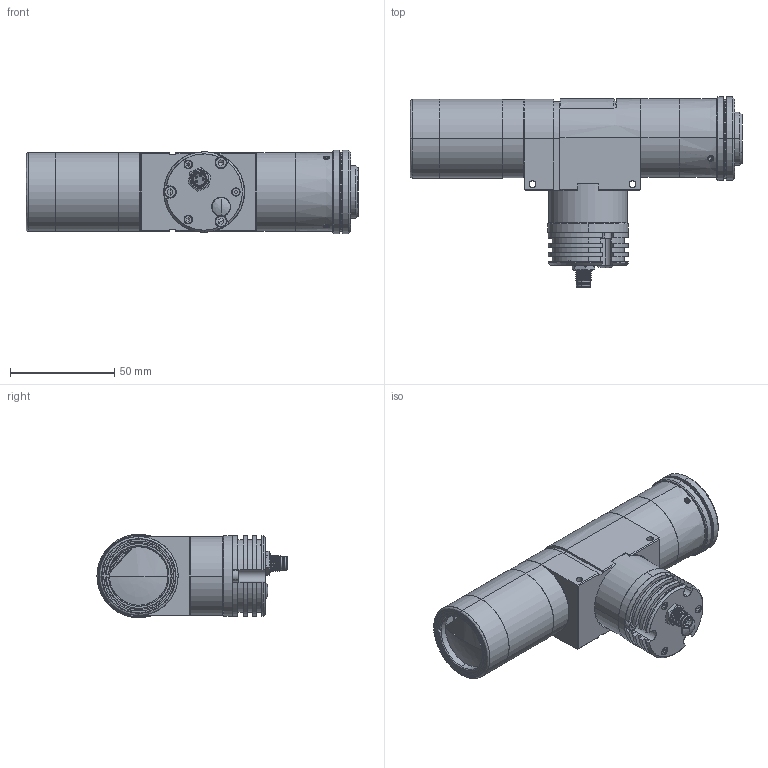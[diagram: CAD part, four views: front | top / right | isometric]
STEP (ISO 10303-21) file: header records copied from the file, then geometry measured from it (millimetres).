
FILE_DESCRIPTION(('LS-TCL-0396'),'2;1');
FILE_NAME('LS-TCL-0396.stp','2026-10-15T21:56:36',('LumaSpec Vision'),('LumaSpec Vision'),'LumaSpec Vision','LumaSpec Vision','');
FILE_SCHEMA(('AUTOMOTIVE_DESIGN { 1 0 10303 214 1 1 1 1 }'));
Length unit declared in the file: millimetre
Products named in the file (435): LumaSpec Vision
Assembly tree (434 placements, depth 2):
  LumaSpec Vision
    LumaSpec Vision
    LumaSpec Vision
    LumaSpec Vision
    LumaSpec Vision
    LumaSpec Vision
    LumaSpec Vision
    LumaSpec Vision
    LumaSpec Vision
    LumaSpec Vision
    LumaSpec Vision
    LumaSpec Vision
    LumaSpec Vision
    LumaSpec Vision
    LumaSpec Vision
    LumaSpec Vision
    LumaSpec Vision
    LumaSpec Vision
    LumaSpec Vision
    LumaSpec Vision
    LumaSpec Vision
    LumaSpec Vision
    LumaSpec Vision
    LumaSpec Vision
    LumaSpec Vision
    LumaSpec Vision
    LumaSpec Vision
    LumaSpec Vision
    LumaSpec Vision
    LumaSpec Vision
    LumaSpec Vision
    LumaSpec Vision
    LumaSpec Vision
    LumaSpec Vision
    LumaSpec Vision
    LumaSpec Vision
    LumaSpec Vision
    LumaSpec Vision
    LumaSpec Vision
    LumaSpec Vision
    LumaSpec Vision
    LumaSpec Vision
    LumaSpec Vision
    LumaSpec Vision
    LumaSpec Vision
    LumaSpec Vision
    LumaSpec Vision
    LumaSpec Vision
    LumaSpec Vision
    LumaSpec Vision
    LumaSpec Vision
    LumaSpec Vision
    LumaSpec Vision
    LumaSpec Vision
    LumaSpec Vision
    LumaSpec Vision
    LumaSpec Vision
    LumaSpec Vision
    LumaSpec Vision
    LumaSpec Vision
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Bounding box: 159.01 x 91.02 x 40 mm (x, y, z)
Surface area: 40491.4 mm2 (no closed solid volume)
Topology: 0 solids, 434 shells, 434 faces, 6969 edges, 6950 vertices
Faces by surface type: bspline 278, revolution 156
Entity records: 118933 total; most frequent: CARTESIAN_POINT 49386, B_SPLINE_CURVE_WITH_KNOTS 12418, ORIENTED_EDGE 6950, EDGE_CURVE 6950, VERTEX_POINT 6950, SURFACE_CURVE 6950, PCURVE 6950, DEFINITIONAL_REPRESENTATION 6950
